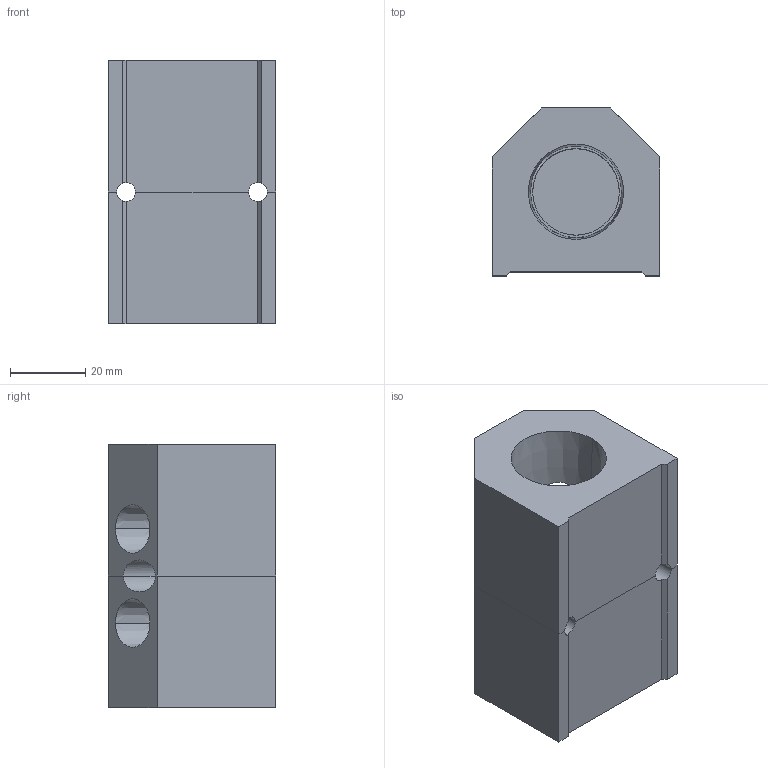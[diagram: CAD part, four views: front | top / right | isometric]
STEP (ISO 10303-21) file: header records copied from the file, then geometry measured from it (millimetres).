
FILE_DESCRIPTION (( 'STEP AP214' ), '1' );
FILE_NAME ('ALM2BD-N4N12-70RB.step', '2022-02-06T14:18:32', ( '' ), ( '' ), 'SwSTEP 2.0', 'SolidWorks 2020', '' );
FILE_SCHEMA (( 'AUTOMOTIVE_DESIGN' ));
Length unit declared in the file: millimetre
Products named in the file (1): ALM2BD-N4N12-70RB
Bounding box: 44.5 x 44.5 x 70 mm (x, y, z)
Volume: 86432.7 mm3; surface area: 24693.2 mm2
Topology: 2 solids, 2 shells, 330 faces, 878 edges, 582 vertices
Faces by surface type: plane 230, bspline 56, cylinder 24, cone 20
Entity records: 17374 total; most frequent: CARTESIAN_POINT 6493, ORIENTED_EDGE 1756, DIRECTION 1334, EDGE_CURVE 878, LINE 648, VECTOR 648, VERTEX_POINT 582, EDGE_LOOP 368
